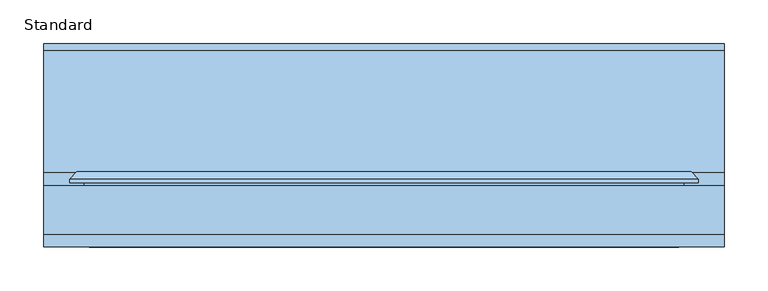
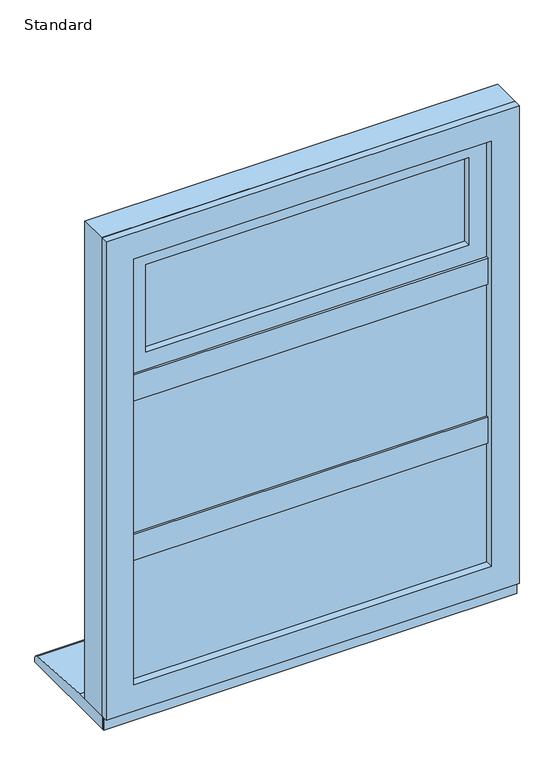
"""IFC4 building model written with IfcOpenShell, lengths in millimetres: window geometry, SMARTS_Alitherm600 : Standard."""

from ifc_helpers import new_model, si_unit, point, frame, frame_2d, origin, place, context, project, spatial, polyline, circle_curve, trimmed, segment, composite_curve, outline, extrude, faceted_brep, source, transform, mapped, element, save


def standard_8207f25b(model_context):
    return source(origin(), model_context, "Body", "SolidModel", [
        extrude(outline(polyline([(354.1020883, 102.8298432), (354.1020883, 47.2458572), (-354.1020883, 47.2458572), (-354.1020883, 102.8298432), (354.1020883, 102.8298432)])), frame((0.0, 0.0, 943.9333333), z_axis=(0.0, 0.0, 1.0), x_axis=(1.0, 0.0, 0.0)), (0.0, 0.0, 1.0), 18.8),
        extrude(outline(polyline([(337.6, 47.2458572), (337.6, 43.2798432), (-337.6, 43.2798432), (-337.6, 47.2458572), (337.6, 47.2458572)])), frame((0.0, 0.0, 927.431245), z_axis=(0.0, 0.0, 1.0), x_axis=(1.0, 0.0, 0.0)), (0.0, 0.0, 1.0), 51.8041766),
        extrude(outline(polyline([(354.1020883, 102.8298432), (354.1020883, 47.2458572), (-354.1020883, 47.2458572), (-354.1020883, 102.8298432), (354.1020883, 102.8298432)])), frame((0.0, 0.0, 1262.2666667), z_axis=(0.0, 0.0, 1.0), x_axis=(1.0, 0.0, 0.0)), (0.0, 0.0, 1.0), 18.8),
        extrude(outline(polyline([(337.6, 47.2458572), (337.6, 43.2798432), (-337.6, 43.2798432), (-337.6, 47.2458572), (337.6, 47.2458572)])), frame((0.0, 0.0, 1245.7645784), z_axis=(0.0, 0.0, 1.0), x_axis=(1.0, 0.0, 0.0)), (0.0, 0.0, 1.0), 51.8041766),
        extrude(outline(polyline([(-352.6, 77.7798432), (352.6, 77.7798432), (352.6, 73.7798432), (-352.6, 73.7798432), (-352.6, 77.7798432)])), frame((0.0, 0.0, 672.4), z_axis=(0.0, 0.0, 1.0), x_axis=(1.0, 0.0, 0.0)), (0.0, 0.0, 1.0), 269.9333333),
        extrude(outline(polyline([(-352.6, 57.7798432), (352.6, 57.7798432), (352.6, 53.7798432), (-352.6, 53.7798432), (-352.6, 57.7798432)])), frame((0.0, 0.0, 672.4), z_axis=(0.0, 0.0, 1.0), x_axis=(1.0, 0.0, 0.0)), (0.0, 0.0, 1.0), 269.9333333),
        extrude(outline(polyline([(942.3333333, -352.6), (672.4, -352.6), (672.4, 352.6), (942.3333333, 352.6), (942.3333333, -352.6)]), holes=[polyline([(932.3333333, 342.6), (682.4, 342.6), (682.4, -342.6), (932.3333333, -342.6), (932.3333333, 342.6)])]), frame((0.0, 57.7798432, 0.0), z_axis=(0.0, 1.0, 0.0), x_axis=(0.0, 0.0, 1.0)), (0.0, 0.0, 1.0), 16.0),
        faceted_brep([(-349.4160653, 102.7798432, 939.1493986), (-337.2339746, 81.6798432, 926.9673079), (-337.2339746, 81.6798432, 687.7660254), (-349.4160653, 102.7798432, 675.5839347), (337.2339746, 81.6798432, 687.7660254), (349.4160653, 102.7798432, 675.5839347), (337.2339746, 81.6798432, 926.9673079), (349.4160653, 102.7798432, 939.1493986), (354.1, 81.6798432, 943.8333333), (354.1, 102.7798432, 943.8333333), (-354.1, 102.7798432, 943.8333333), (-354.1, 81.6798432, 943.8333333), (-354.1, 102.7798432, 670.9), (-354.1, 81.6798432, 670.9), (354.1, 102.7798432, 670.9), (354.1, 81.6798432, 670.9)], [[[0, 1, 2, 3]], [[3, 2, 4, 5]], [[5, 4, 6, 7]], [[7, 6, 1, 0]], [[8, 9, 10, 11]], [[11, 10, 12, 13]], [[13, 12, 14, 15]], [[9, 14, 12, 10], [0, 3, 5, 7]], [[15, 14, 9, 8]], [[11, 13, 15, 8], [6, 4, 2, 1]]]),
        extrude(outline(polyline([(-352.6, 77.7798432), (352.6, 77.7798432), (352.6, 73.7798432), (-352.6, 73.7798432), (-352.6, 77.7798432)])), frame((0.0, 0.0, 964.3333333), z_axis=(0.0, 0.0, 1.0), x_axis=(1.0, 0.0, 0.0)), (0.0, 0.0, 1.0), 296.3333333),
        extrude(outline(polyline([(-352.6, 57.7798432), (352.6, 57.7798432), (352.6, 53.7798432), (-352.6, 53.7798432), (-352.6, 57.7798432)])), frame((0.0, 0.0, 964.3333333), z_axis=(0.0, 0.0, 1.0), x_axis=(1.0, 0.0, 0.0)), (0.0, 0.0, 1.0), 296.3333333),
        extrude(outline(polyline([(1260.6666667, -352.6), (964.3333333, -352.6), (964.3333333, 352.6), (1260.6666667, 352.6), (1260.6666667, -352.6)]), holes=[polyline([(1250.6666667, 342.6), (974.3333333, 342.6), (974.3333333, -342.6), (1250.6666667, -342.6), (1250.6666667, 342.6)])]), frame((0.0, 57.7798432, 0.0), z_axis=(0.0, 1.0, 0.0), x_axis=(0.0, 0.0, 1.0)), (0.0, 0.0, 1.0), 16.0),
        faceted_brep([(-349.4160653, 102.7798432, 1257.4827319), (-337.2339746, 81.6798432, 1245.3006413), (-337.2339746, 81.6798432, 979.6993587), (-349.4160653, 102.7798432, 967.5172681), (337.2339746, 81.6798432, 979.6993587), (349.4160653, 102.7798432, 967.5172681), (337.2339746, 81.6798432, 1245.3006413), (349.4160653, 102.7798432, 1257.4827319), (354.1, 81.6798432, 1262.1666667), (354.1, 102.7798432, 1262.1666667), (-354.1, 102.7798432, 1262.1666667), (-354.1, 81.6798432, 1262.1666667), (-354.1, 102.7798432, 962.8333333), (-354.1, 81.6798432, 962.8333333), (354.1, 102.7798432, 962.8333333), (354.1, 81.6798432, 962.8333333)], [[[0, 1, 2, 3]], [[3, 2, 4, 5]], [[5, 4, 6, 7]], [[7, 6, 1, 0]], [[8, 9, 10, 11]], [[11, 10, 12, 13]], [[13, 12, 14, 15]], [[9, 14, 12, 10], [0, 3, 5, 7]], [[15, 14, 9, 8]], [[11, 13, 15, 8], [6, 4, 2, 1]]]),
        extrude(outline(polyline([(1590.0, 390.0), (1590.0, -390.0), (635.0, -390.0), (635.0, 390.0), (1590.0, 390.0)]), holes=[polyline([(670.85, 354.15), (670.85, -354.15), (1554.15, -354.15), (1554.15, 354.15), (670.85, 354.15)])]), frame((0.0, 47.2798427, 0.0), z_axis=(0.0, 1.0, 0.0), x_axis=(0.0, 0.0, 1.0)), (0.0, 0.0, 1.0), 55.5500006),
        extrude(outline(polyline([(1590.0, 390.0), (1590.0, -390.0), (635.0, -390.0), (635.0, 390.0), (1590.0, 390.0)]), holes=[polyline([(687.35, 337.65), (687.35, -337.65), (1537.65, -337.65), (1537.65, 337.65), (687.35, 337.65)])]), frame((0.0, 32.8298432, 0.0), z_axis=(0.0, 1.0, 0.0), x_axis=(0.0, 0.0, 1.0)), (0.0, 0.0, 1.0), 14.4499994),
        extrude(outline(polyline([(1516.6, -316.6), (1318.6666667, -316.6), (1318.6666667, 316.6), (1516.6, 316.6), (1516.6, -316.6)]), holes=[polyline([(1506.6, 306.6), (1328.6666667, 306.6), (1328.6666667, -306.6), (1506.6, -306.6), (1506.6, 306.6)])]), frame((0.0, 72.3211351, 0.0), z_axis=(0.0, 1.0, 0.0), x_axis=(0.0, 0.0, 1.0)), (0.0, 0.0, 1.0), 16.0),
        extrude(outline(polyline([(-316.6, 92.3211351), (316.6, 92.3211351), (316.6, 88.3211351), (-316.6, 88.3211351), (-316.6, 92.3211351)])), frame((0.0, 0.0, 1318.6666667), z_axis=(0.0, 0.0, 1.0), x_axis=(1.0, 0.0, 0.0)), (0.0, 0.0, 1.0), 197.9333333),
        extrude(outline(polyline([(-316.6, 72.3211351), (316.6, 72.3211351), (316.6, 68.3211351), (-316.6, 68.3211351), (-316.6, 72.3211351)])), frame((0.0, 0.0, 1318.6666667), z_axis=(0.0, 0.0, 1.0), x_axis=(1.0, 0.0, 0.0)), (0.0, 0.0, 1.0), 197.9333333),
        faceted_brep([(316.9221147, 118.8818325, 1516.9221147), (304.740024, 97.7818325, 1504.740024), (-304.740024, 97.7818325, 1504.740024), (-316.9221147, 118.8818325, 1516.9221147), (321.6060494, 97.7818325, 1521.6060494), (321.6060494, 118.8818325, 1521.6060494), (-321.6060494, 118.8818325, 1521.6060494), (-321.6060494, 97.7818325, 1521.6060494), (-304.740024, 97.7818325, 1330.5266427), (-316.9221147, 118.8818325, 1318.344552), (-321.6060494, 118.8818325, 1313.6606173), (-321.6060494, 97.7818325, 1313.6606173), (304.740024, 97.7818325, 1330.5266427), (316.9221147, 118.8818325, 1318.344552), (321.6060494, 118.8818325, 1313.6606173), (321.6060494, 97.7818325, 1313.6606173)], [[[0, 1, 2, 3]], [[4, 5, 6, 7]], [[3, 2, 8, 9]], [[7, 6, 10, 11]], [[9, 8, 12, 13]], [[11, 10, 14, 15]], [[13, 12, 1, 0]], [[5, 14, 10, 6], [3, 9, 13, 0]], [[15, 14, 5, 4]], [[7, 11, 15, 4], [1, 12, 8, 2]]]),
        extrude(outline(polyline([(1291.8195747, -343.447092), (1291.8195747, 343.447092), (1543.447092, 343.447092), (1543.447092, -343.447092), (1291.8195747, -343.447092)]), holes=[polyline([(1505.1, -305.1), (1505.1, 305.1), (1330.1666667, 305.1), (1330.1666667, -305.1), (1505.1, -305.1)])]), frame((0.0, 50.2798432, 0.0), z_axis=(0.0, 1.0, 0.0), x_axis=(0.0, 0.0, 1.0)), (0.0, 0.0, 1.0), 13.0853156),
        faceted_brep([(-321.6060494, 118.8818325, 1521.6060494), (-321.6060494, 63.3651588, 1521.6060494), (-321.6060494, 63.3651588, 1313.6606173), (-321.6060494, 118.8818325, 1313.6606173), (321.6060494, 63.3651588, 1313.6606173), (321.6060494, 118.8818325, 1313.6606173), (321.6060494, 63.3651588, 1521.6060494), (321.6060494, 118.8818325, 1521.6060494), (-360.3358988, 106.2818325, 1560.3358988), (-360.3358988, 110.3519831, 1560.3358988), (-360.3358988, 110.3519831, 1274.9307679), (-360.3358988, 106.2818325, 1274.9307679), (360.3358988, 110.3519831, 1274.9307679), (360.3358988, 106.2818325, 1274.9307679), (360.3358988, 110.3519831, 1560.3358988), (360.3358988, 106.2818325, 1560.3358988), (-343.7467657, 106.2818325, 1543.7467657), (343.7467657, 106.2818325, 1543.7467657), (343.7467657, 106.2818325, 1291.5199009), (-343.7467657, 106.2818325, 1291.5199009), (-351.8060494, 118.8818325, 1551.8060494), (351.8060494, 118.8818325, 1551.8060494), (351.8060494, 118.8818325, 1283.4606173), (-351.8060494, 118.8818325, 1283.4606173), (-343.7467657, 63.3651588, 1543.7467657), (-343.7467657, 63.3651588, 1291.5199009), (343.7467657, 63.3651588, 1291.5199009), (343.7467657, 63.3651588, 1543.7467657)], [[[0, 1, 2, 3]], [[3, 2, 4, 5]], [[5, 4, 6, 7]], [[7, 6, 1, 0]], [[8, 9, 10, 11]], [[11, 10, 12, 13]], [[13, 12, 14, 15]], [[11, 13, 15, 8], [16, 17, 18, 19]], [[15, 14, 9, 8]], [[20, 21, 22, 23], [3, 5, 7, 0]], [[24, 16, 19, 25]], [[25, 19, 18, 26]], [[26, 18, 17, 27]], [[25, 26, 27, 24], [1, 6, 4, 2]], [[27, 17, 16, 24]], [[9, 20, 23, 10]], [[10, 23, 22, 12]], [[12, 22, 21, 14]], [[14, 21, 20, 9]]]),
        extrude(outline(polyline([(390.0, 43.2798432), (390.0, 40.7798432), (-390.0, 40.7798432), (-390.0, 43.2798432), (390.0, 43.2798432)])), frame((0.0, 0.0, 610.0), z_axis=(0.0, 0.0, 1.0), x_axis=(1.0, 0.0, 0.0)), (0.0, 0.0, 1.0), 31.0),
        extrude(outline(composite_curve([segment(polyline([(265.7798432, 610.0), (43.2798432, 610.0), (43.2798432, 635.0), (118.7798432, 635.0), (258.4770891, 625.9276664)]), True, "CONTINUOUS"), segment(trimmed(circle_curve(frame_2d((257.7798432, 617.9581088)), 8.0), [point((258.4770891, 625.9276664))], [point((265.7798432, 617.9581088))], False, "CARTESIAN"), True, "CONTINUOUS"), segment(polyline([(265.7798432, 617.9581088), (265.7798432, 610.0)]), True, "CONTINUOUS")], self_intersect=False)), frame((-390.0, 0.0, 0.0), z_axis=(1.0, 0.0, 0.0), x_axis=(0.0, 1.0, 0.0)), (0.0, 0.0, 1.0), 780.0),
    ])


if __name__ == "__main__":
    model = new_model("IFC4")
    model_context = context("Model", 3, world=origin())
    ifc_project = project(units=[si_unit("LENGTHUNIT", "METRE", prefix="MILLI")], contexts=[model_context])
    site = spatial("IfcSite", under=ifc_project)
    building = spatial("IfcBuilding", under=site)
    placement = place(None, origin())
    standard_shape = standard_8207f25b(model_context)
    element("IfcWindow", 1, ObjectType="SMARTS_Alitherm600 : Standard", at=placement, inside=building, context=model_context, shape_type="MappedRepresentation", body=[
        mapped(standard_shape, transform((0.0, 0.0, 0.0), x_axis=(1.0, 0.0, 0.0), y_axis=(0.0, 1.0, 0.0), z_axis=(0.0, 0.0, 1.0))),
    ])
    save(model, "model.ifc")
